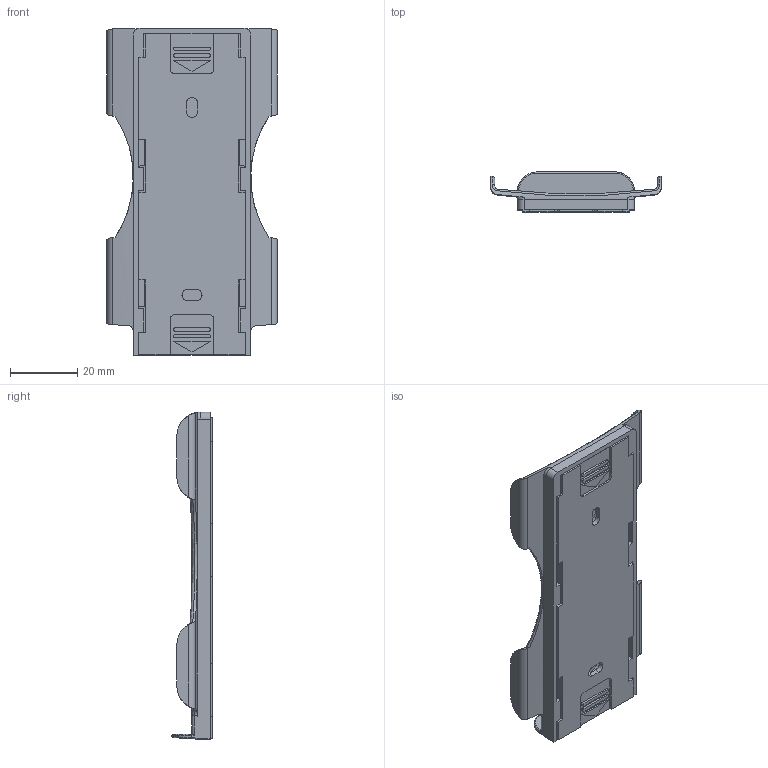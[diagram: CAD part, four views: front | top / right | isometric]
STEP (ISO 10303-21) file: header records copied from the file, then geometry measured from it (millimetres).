
FILE_DESCRIPTION (( 'STEP AP203' ), '1' );
FILE_NAME ('Wandhalterung_Basic_24.STEP', '2024-12-02T12:47:46', ( '' ), ( '' ), 'SwSTEP 2.0', 'SolidWorks 2023', '' );
FILE_SCHEMA (( 'CONFIG_CONTROL_DESIGN' ));
Length unit declared in the file: millimetre
Products named in the file (3): Wandhalterung_Basic_24; deckel; 3625701
Assembly tree (2 placements, depth 2):
  Wandhalterung_Basic_24
    3625701
    deckel
Bounding box: 50.9 x 11.98 x 97.7 mm (x, y, z)
Volume: 15243.1 mm3; surface area: 19549.1 mm2
Topology: 2 solids, 2 shells, 503 faces, 1366 edges, 896 vertices
Faces by surface type: plane 292, bspline 107, cylinder 90, torus 14
Entity records: 20669 total; most frequent: CARTESIAN_POINT 8387, ORIENTED_EDGE 2728, DIRECTION 2079, EDGE_CURVE 1364, VECTOR 923, LINE 923, VERTEX_POINT 896, AXIS2_PLACEMENT_3D 578
